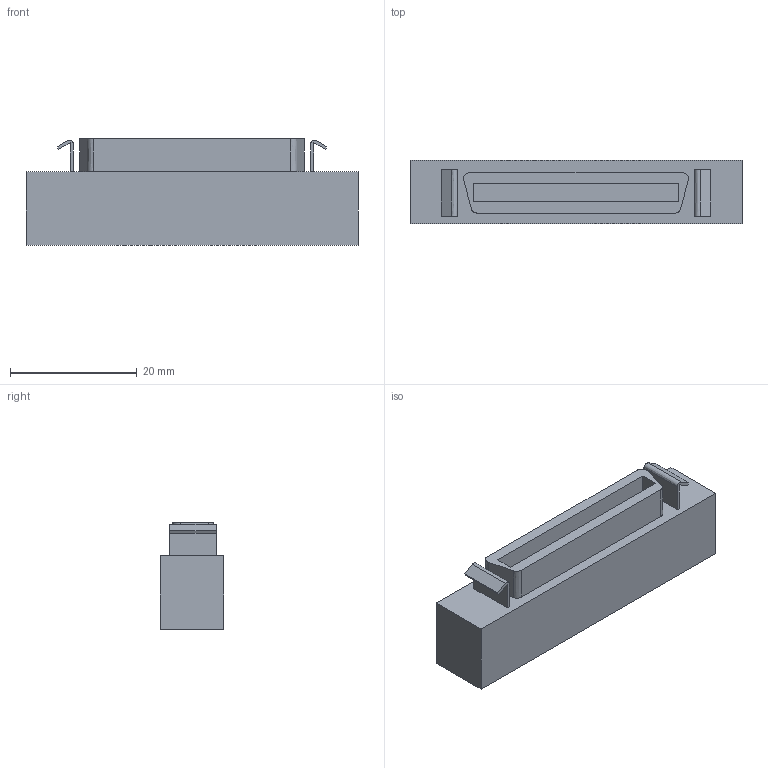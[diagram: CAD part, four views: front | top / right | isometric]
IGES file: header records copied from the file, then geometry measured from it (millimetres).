
Start section:  PTC IGES file: j4a-cn1.igs
Global section: file name: j4a-cn1.igs; native system: Pro/ENGINEER by Parametric Technology Corporation; preprocessor: 2010160; author: CV86875; organization: Unknown; date: 20121031.193706; units: millimetre
Bounding box: 52.4 x 10 x 16.85 mm (x, y, z)
Volume: 6816.3 mm3; surface area: 3509.5 mm2
Topology: 1 solids, 1 shells, 36 faces, 90 edges, 60 vertices
Faces by surface type: bspline 36
